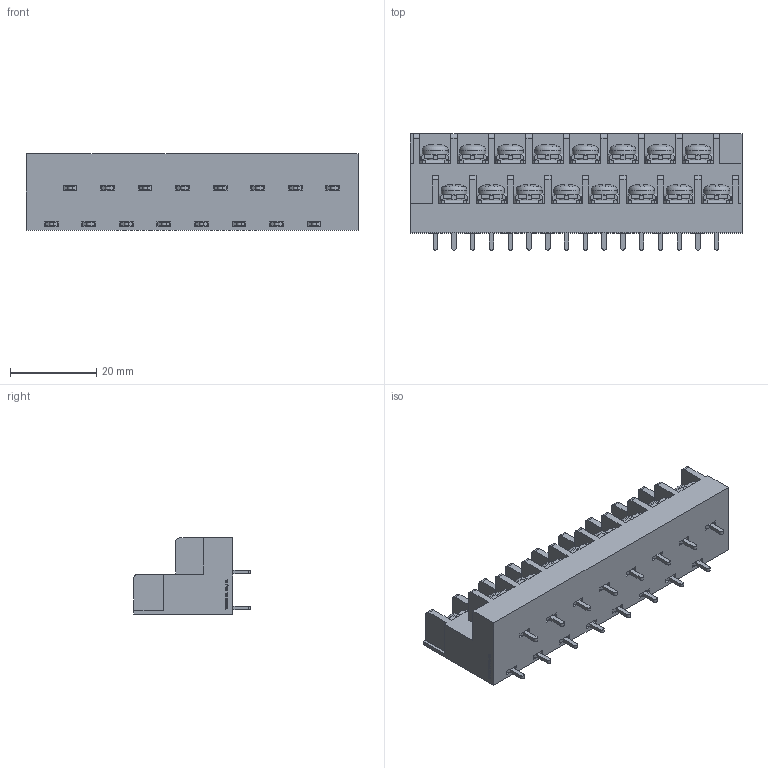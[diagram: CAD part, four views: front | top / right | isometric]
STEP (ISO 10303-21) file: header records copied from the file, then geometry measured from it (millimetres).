
FILE_DESCRIPTION(/* description */ ('Alibre Inc.'),/* implementation_level */ '2;1');
FILE_NAME(/* name */ 'export-0503D7DA-E825-43B5-A0D3-AAEE3F744F04',/* time_stamp */ '2021-02-08T17:05:36+09:00',/* author */ (''),/* organization */ (''),/* preprocessor_version */ 'ST-DEVELOPER v17',/* originating_system */ 'Alibre',/* authorisation */ '');
FILE_SCHEMA (('CONFIG_CONTROL_DESIGN'));
Length unit declared in the file: millimetre
Bounding box: 76.95 x 27 x 17.7 mm (x, y, z)
Volume: 19831.1 mm3; surface area: 13407.2 mm2
Topology: 1 solids, 33 shells, 2624 faces, 6542 edges, 4100 vertices
Faces by surface type: plane 1884, bspline 386, cylinder 146, extrusion 64, cone 64, torus 48, sphere 32
Full cylindrical faces by diameter (mm): 3.5 x32, 4.5 x16, 5 x16, 6 x16
Entity records: 81919 total; most frequent: CARTESIAN_POINT 26585, ORIENTED_EDGE 12700, DIRECTION 8163, EDGE_CURVE 6350, VECTOR 4470, LINE 4438, VERTEX_POINT 4036, EDGE_LOOP 2908
